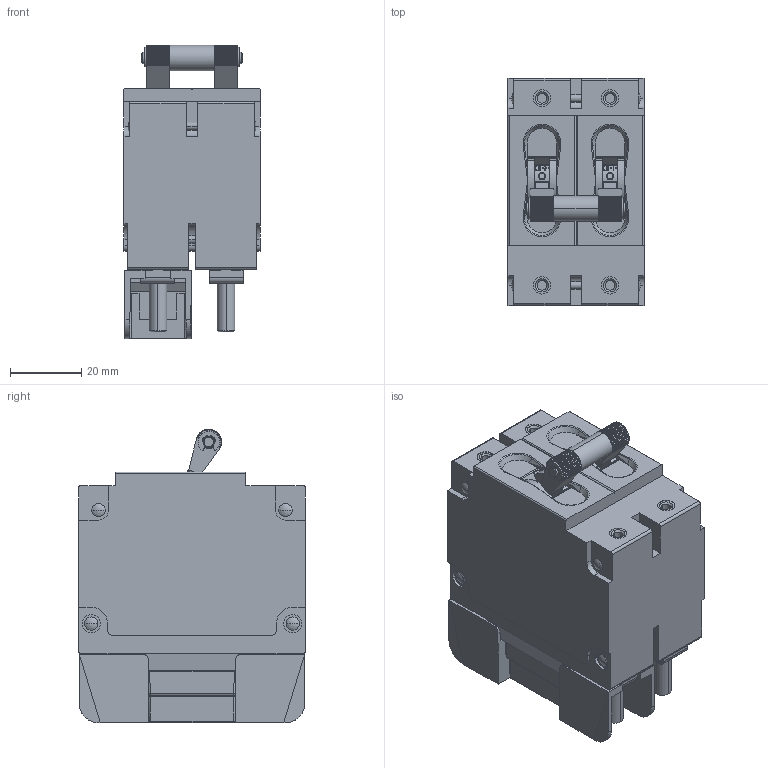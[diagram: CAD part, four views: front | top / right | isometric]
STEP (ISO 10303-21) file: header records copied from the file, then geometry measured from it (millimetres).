
FILE_DESCRIPTION((''),'2;1');
FILE_NAME('CS2','2016-03-14T',('patrickmoody'),(''),'CREO PARAMETRIC BY PTC INC, 2015480','CREO PARAMETRIC BY PTC INC, 2015480','');
FILE_SCHEMA(('AUTOMOTIVE_DESIGN { 1 0 10303 214 1 1 1 1 }'));
Length unit declared in the file: inch
Products named in the file (1): CS2
Bounding box: 38.1 x 63.5 x 82.12 mm (x, y, z)
Volume: 127206.3 mm3; surface area: 30561 mm2
Topology: 1 solids, 1 shells, 1394 faces, 3883 edges, 2532 vertices
Faces by surface type: plane 880, cylinder 412, cone 40, bspline 30, sphere 24, torus 8
Entity records: 59754 total; most frequent: CARTESIAN_POINT 12276, ORIENTED_EDGE 7726, DIRECTION 7033, EDGE_CURVE 3863, VERTEX_POINT 2532, VECTOR 2381, LINE 2381, AXIS2_PLACEMENT_3D 2326
